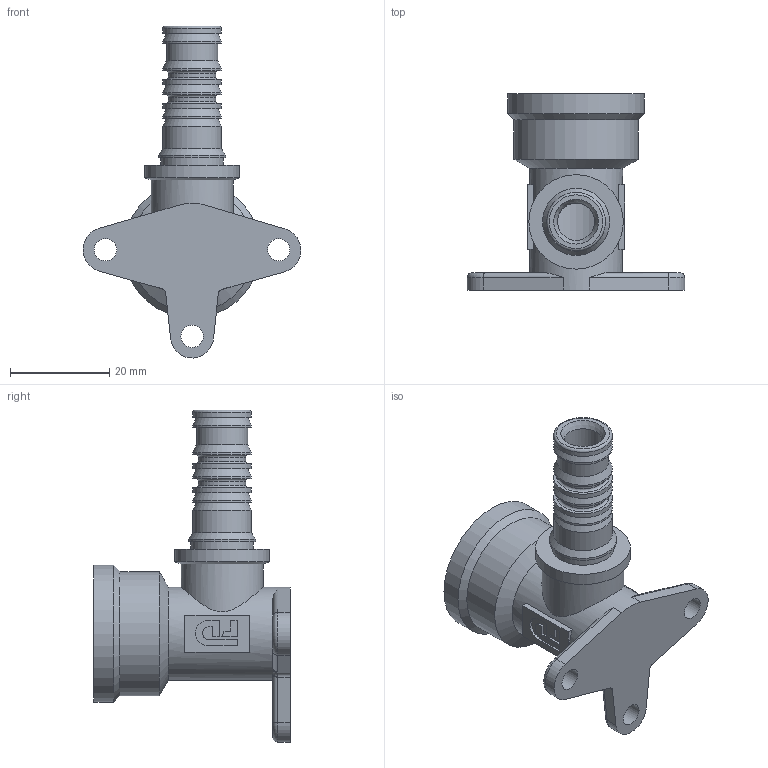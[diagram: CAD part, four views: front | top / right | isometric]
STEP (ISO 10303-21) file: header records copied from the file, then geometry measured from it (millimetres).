
FILE_DESCRIPTION(/* description */ (''),/* implementation_level */ '2;1');
FILE_NAME(/* name */ 'C:\Users\Doom\Desktop\Фадотех\Пресс\HDU30-1 15.01.2020\HDU30-1 15.01.2020.stp',/* time_stamp */ '2022-08-13T22:55:41+03:00',/* author */ ('Doom'),/* organization */ (''),/* preprocessor_version */ 'ST-DEVELOPER v18',/* originating_system */ 'Autodesk Inventor 2020',/* authorisation */ '');
FILE_SCHEMA (('AUTOMOTIVE_DESIGN { 1 0 10303 214 3 1 1 }'));
Length unit declared in the file: millimetre
Products named in the file (1): RFU30 16X12F 21.08.2020
Bounding box: 43.79 x 39.5 x 66.77 mm (x, y, z)
Volume: 12173 mm3; surface area: 11927.6 mm2
Topology: 2 solids, 2 shells, 156 faces, 418 edges, 283 vertices
Faces by surface type: plane 68, cylinder 49, bspline 14, cone 13, torus 12
Full cylindrical faces by diameter (mm): 4.5 x3, 7.5 x1, 9.5 x2, 10.3 x1, 11.8 x8, 12.6 x1, 13.5 x1, 15 x1, 16.5 x1, 18.26 x9, 18.7 x1, 19 x1, 20.95 x2, 25 x1, 27.5 x1
Entity records: 9228 total; most frequent: CARTESIAN_POINT 5267, ORIENTED_EDGE 828, DIRECTION 799, EDGE_CURVE 414, AXIS2_PLACEMENT_3D 304, VERTEX_POINT 281, LINE 191, VECTOR 191
